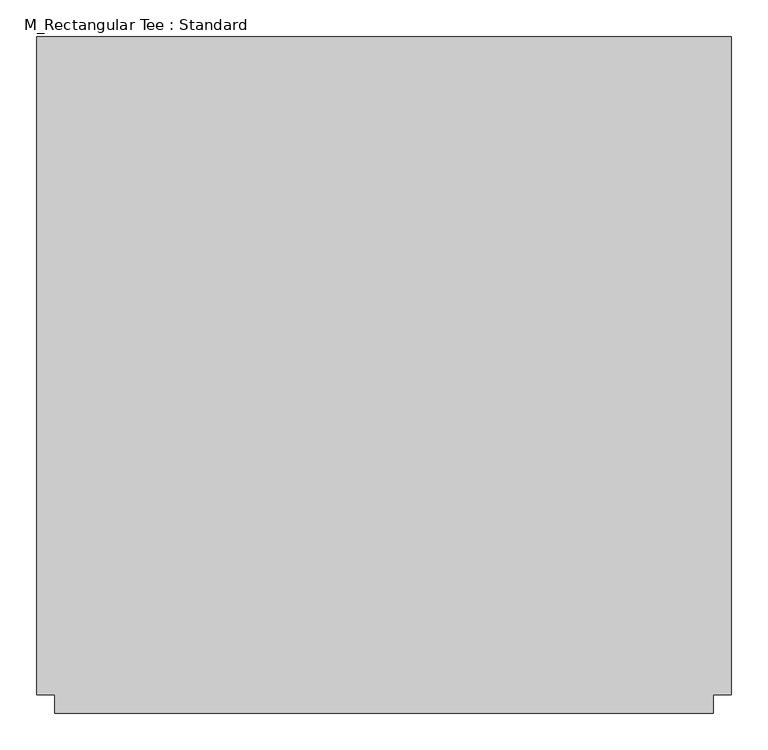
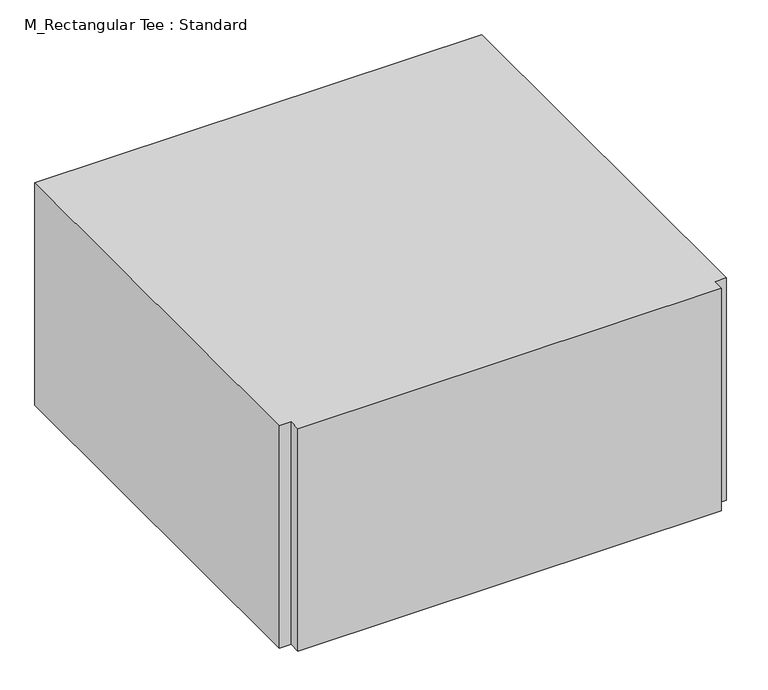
"""IFC4 building model written with IfcOpenShell, lengths in millimetres: duct fitting geometry, M_Rectangular Tee : Standard."""

from ifc_helpers import new_model, si_unit, frame, origin, place, context, project, spatial, polyline, outline, extrude, source, transform, mapped, element, save


def m_rectangular_tee_standard_27932f4a(model_context):
    return source(origin(), model_context, "Body", "SweptSolid", [
        extrude(outline(polyline([(-475.0, -450.0), (-475.0, 450.0), (475.0, 450.0), (475.0, -450.0), (450.0, -450.0), (450.0, -475.0), (-450.0, -475.0), (-450.0, -450.0), (-475.0, -450.0)])), frame((0.0, 0.0, -250.0), z_axis=(0.0, 0.0, 1.0), x_axis=(1.0, 0.0, 0.0)), (0.0, 0.0, 1.0), 500.0),
        extrude(outline(polyline([(-475.0, 450.0), (475.0, 450.0), (475.0, -450.0), (450.0, -450.0), (450.0, -475.0), (-450.0, -475.0), (-450.0, -450.0), (-475.0, -450.0), (-475.0, 450.0)])), frame((0.0, 0.0, -250.0), z_axis=(0.0, 0.0, 1.0), x_axis=(1.0, 0.0, 0.0)), (0.0, 0.0, 1.0), 500.0),
        extrude(outline(polyline([(-475.0, -450.0), (-475.0, 450.0), (475.0, 450.0), (475.0, -450.0), (450.0, -450.0), (450.0, -475.0), (-450.0, -475.0), (-450.0, -450.0), (-475.0, -450.0)])), frame((0.0, 0.0, -250.0), z_axis=(0.0, 0.0, 1.0), x_axis=(1.0, 0.0, 0.0)), (0.0, 0.0, 1.0), 500.0),
    ])


if __name__ == "__main__":
    model = new_model("IFC4")
    model_context = context("Model", 3, world=origin())
    ifc_project = project(units=[si_unit("LENGTHUNIT", "METRE", prefix="MILLI")], contexts=[model_context])
    site = spatial("IfcSite", under=ifc_project)
    building = spatial("IfcBuilding", under=site)
    placement = place(None, origin())
    m_rectangular_tee_standard_shape = m_rectangular_tee_standard_27932f4a(model_context)
    element("IfcDuctFitting", 1, ObjectType="M_Rectangular Tee : Standard", at=placement, inside=building, context=model_context, shape_type="MappedRepresentation", body=[
        mapped(m_rectangular_tee_standard_shape, transform((0.0, 0.0, 0.0), x_axis=(1.0, 0.0, 0.0), y_axis=(0.0, 1.0, 0.0), z_axis=(0.0, 0.0, 1.0))),
    ])
    save(model, "model.ifc")
